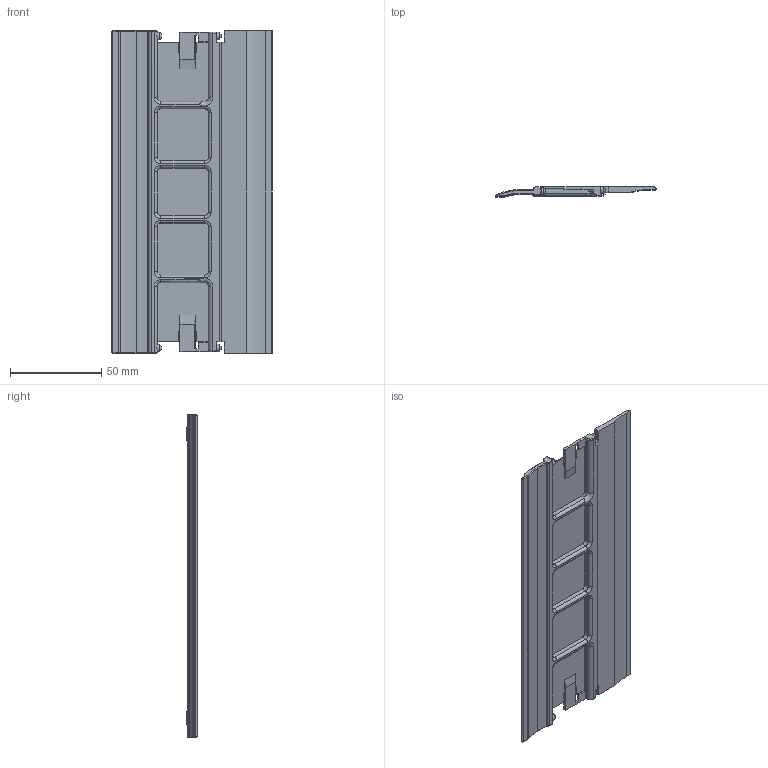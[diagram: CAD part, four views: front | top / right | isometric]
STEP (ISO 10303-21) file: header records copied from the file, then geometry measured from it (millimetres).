
FILE_DESCRIPTION((''),'2;1');
FILE_NAME('C:\Uebbing\PARAMETERKETTEN\KOLIBRI\Kol_65_195_5\Kol_65_195_5 Klappdeckel.stp','2011-11-02T15:20:44',('Uebbing'),(''),'Autodesk Inventor 10','Autodesk Inventor 10','');
FILE_SCHEMA(('AUTOMOTIVE_DESIGN { 1 0 10303 214 1 1 1 1 }'));
Length unit declared in the file: millimetre
Products named in the file (1): Kol_65_195_5 Klappdeckel
Bounding box: 87.8 x 5.6 x 176.6 mm (x, y, z)
Volume: 35796.3 mm3; surface area: 33765.1 mm2
Topology: 1 solids, 1 shells, 239 faces, 626 edges, 392 vertices
Faces by surface type: bspline 108, plane 67, cylinder 45, torus 16, cone 3
Full cylindrical faces by diameter (mm): 4 x1
Entity records: 8386 total; most frequent: CARTESIAN_POINT 2774, ORIENTED_EDGE 1240, DIRECTION 1070, EDGE_CURVE 620, VECTOR 402, LINE 402, VERTEX_POINT 390, AXIS2_PLACEMENT_3D 334
